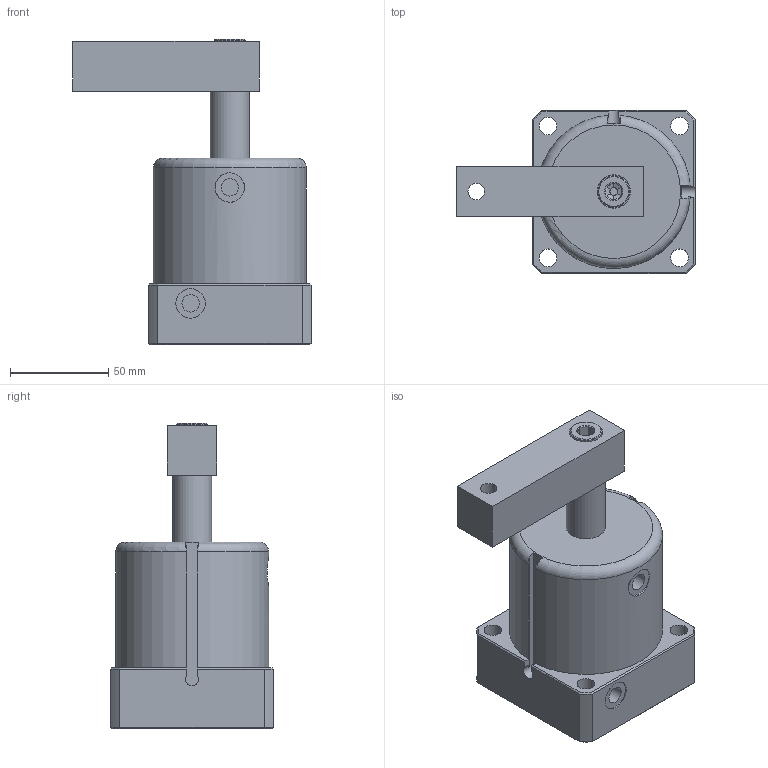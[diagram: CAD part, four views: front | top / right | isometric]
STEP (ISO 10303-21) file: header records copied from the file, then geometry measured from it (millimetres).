
FILE_DESCRIPTION(/* description */ ('Unknown'),/* implementation_level */ '2;1');
FILE_NAME(/* name */ 'ASC-MS63S-A',/* time_stamp */ '2019-05-20T15:25:10+08:00',/* author */ ('Unknown'),/* organization */ ('Unknown'),/* preprocessor_version */ 'ST-DEVELOPER v16.7',/* originating_system */ 'DEX',/* authorisation */ $);
FILE_SCHEMA (('AUTOMOTIVE_DESIGN {1 0 10303 214 3 1 1}'));
Length unit declared in the file: millimetre
Products named in the file (5): ASC-MS63S-A; ASC-MS63S-CYLINDER; ASC-6302-S-AXLE CENTRE; ASC-63S-A; ASC-6302-S-THREAD
Assembly tree (4 placements, depth 2):
  ASC-MS63S-A
    ASC-MS63S-CYLINDER
    ASC-6302-S-AXLE CENTRE
    ASC-63S-A
    ASC-6302-S-THREAD
Bounding box: 121.5 x 83 x 155.4 mm (x, y, z)
Volume: 476490.7 mm3; surface area: 89881.9 mm2
Topology: 4 solids, 4 shells, 137 faces, 300 edges, 187 vertices
Faces by surface type: plane 73, cylinder 30, cone 24, bspline 6, torus 4
Full cylindrical faces by diameter (mm): 6 x2, 8.5 x1, 8.8 x2, 9 x4, 10 x2, 11 x1, 15 x2, 16 x1, 17 x1, 20 x2, 63 x2
Entity records: 4726 total; most frequent: CARTESIAN_POINT 844, DIRECTION 584, ORIENTED_EDGE 520, EDGE_CURVE 260, AXIS2_PLACEMENT_3D 238, EDGE_LOOP 199, FACE_BOUND 199, VERTEX_POINT 181
